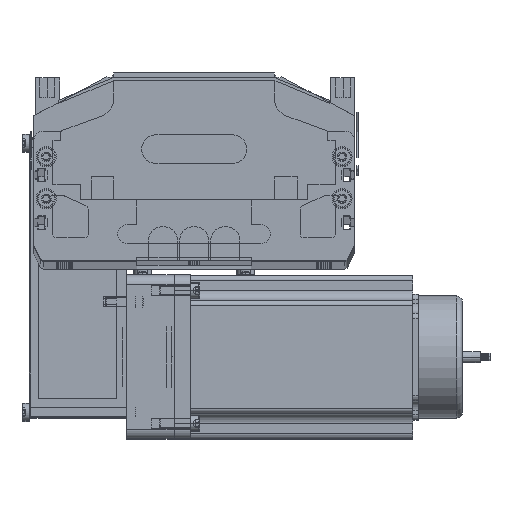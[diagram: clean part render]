
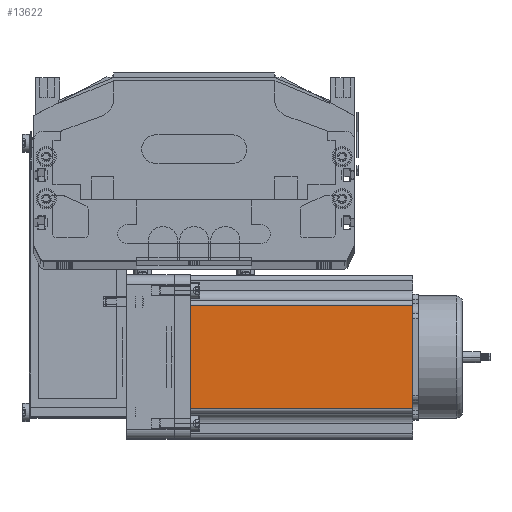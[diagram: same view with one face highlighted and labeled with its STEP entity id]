
A CAD part, top view. The second image highlights one B-rep face of the part: STEP entity #13622.
In plain terms, the highlighted planar face has unit normal (0, 0, 1) as drawn and (0, -1, 0) by its records, which use the part's own axes.
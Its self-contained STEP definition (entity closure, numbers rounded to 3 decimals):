
#13613 = EDGE_LOOP ( 'NONE', ( #14037, #13623, #14028, #14044 ) ) ;
#13618 = VERTEX_POINT ( 'NONE', #54265 ) ;
#13622 = ADVANCED_FACE ( 'NONE', ( #54256 ), #54252, .F. ) ;
#13623 = ORIENTED_EDGE ( 'NONE', *, *, #14038, .T. ) ;
#13935 = EDGE_CURVE ( 'NONE', #14048, #14043, #55023, .T. ) ;
#14018 = VERTEX_POINT ( 'NONE', #55056 ) ;
#14020 = EDGE_CURVE ( 'NONE', #14043, #14018, #55044, .T. ) ;
#14028 = ORIENTED_EDGE ( 'NONE', *, *, #14045, .F. ) ;
#14037 = ORIENTED_EDGE ( 'NONE', *, *, #14020, .T. ) ;
#14038 = EDGE_CURVE ( 'NONE', #14018, #13618, #54871, .T. ) ;
#14043 = VERTEX_POINT ( 'NONE', #54856 ) ;
#14044 = ORIENTED_EDGE ( 'NONE', *, *, #13935, .T. ) ;
#14045 = EDGE_CURVE ( 'NONE', #14048, #13618, #54865, .T. ) ;
#14048 = VERTEX_POINT ( 'NONE', #54874 ) ;
#54127 = DIRECTION ( 'NONE',  ( 0., 0., 1. ) ) ;
#54252 = PLANE ( 'NONE',  #54267 ) ;
#54256 = FACE_OUTER_BOUND ( 'NONE', #13613, .T. ) ;
#54265 = CARTESIAN_POINT ( 'NONE',  ( 69.74, 0., 116.5 ) ) ;
#54267 = AXIS2_PLACEMENT_3D ( 'NONE', #54346, #54344, #54127 ) ;
#54344 = DIRECTION ( 'NONE',  ( 0., 1., 0. ) ) ;
#54346 = CARTESIAN_POINT ( 'NONE',  ( 0., 0., 116.5 ) ) ;
#54849 = DIRECTION ( 'NONE',  ( 1., 0., 0. ) ) ;
#54850 = VECTOR ( 'NONE', #54849, 1000. ) ;
#54856 = CARTESIAN_POINT ( 'NONE',  ( 16.16, 0., 0. ) ) ;
#54862 = DIRECTION ( 'NONE',  ( 0., 0., 1. ) ) ;
#54864 = CARTESIAN_POINT ( 'NONE',  ( 0., 0., 116.5 ) ) ;
#54865 = LINE ( 'NONE', #54864, #54850 ) ;
#54867 = VECTOR ( 'NONE', #54862, 1000. ) ;
#54870 = CARTESIAN_POINT ( 'NONE',  ( 69.74, 0., 116.5 ) ) ;
#54871 = LINE ( 'NONE', #54870, #54867 ) ;
#54874 = CARTESIAN_POINT ( 'NONE',  ( 16.16, 0., 116.5 ) ) ;
#54996 = DIRECTION ( 'NONE',  ( 0., 0., -1. ) ) ;
#54997 = VECTOR ( 'NONE', #54996, 1000. ) ;
#54998 = CARTESIAN_POINT ( 'NONE',  ( 16.16, 0., 116.5 ) ) ;
#55023 = LINE ( 'NONE', #54998, #54997 ) ;
#55041 = DIRECTION ( 'NONE',  ( 1., 0., 0. ) ) ;
#55042 = VECTOR ( 'NONE', #55041, 1000. ) ;
#55043 = CARTESIAN_POINT ( 'NONE',  ( 0., 0., 0. ) ) ;
#55044 = LINE ( 'NONE', #55043, #55042 ) ;
#55056 = CARTESIAN_POINT ( 'NONE',  ( 69.74, 0., 0. ) ) ;
